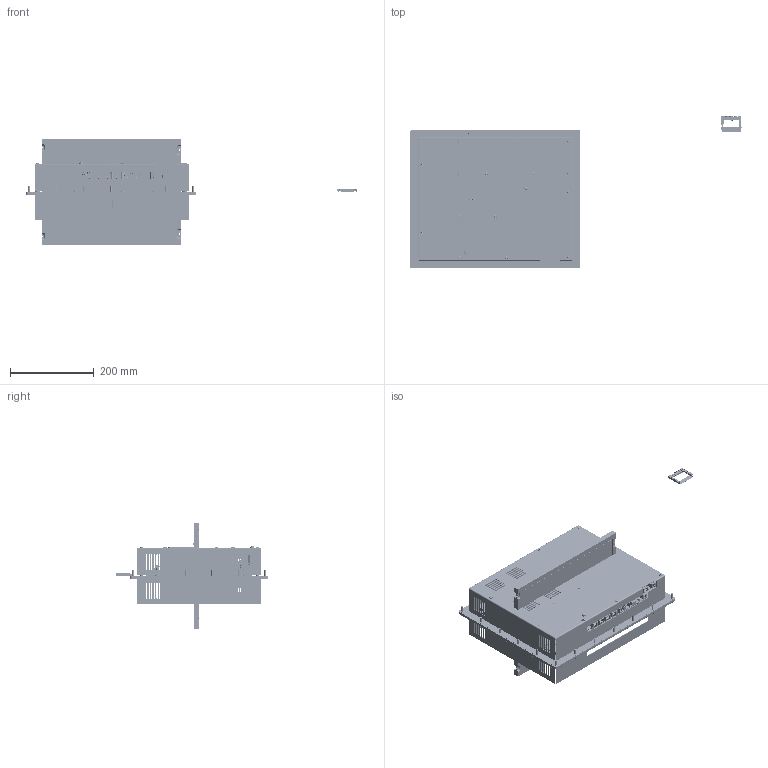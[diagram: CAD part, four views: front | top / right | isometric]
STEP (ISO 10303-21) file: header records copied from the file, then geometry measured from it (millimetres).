
FILE_DESCRIPTION( ( 'Unknown' ), '1' );
FILE_NAME( 'W:/Teams/Mech/SE data/Product_Lines/G3/G315/G315C2.stp', 'Unknown', ( 'Unknown' ), ( 'Unknown' ), 'PSStep 13.0', 'Unknown', ' ' );
FILE_SCHEMA( ( 'AUTOMOTIVE_DESIGN { 1 0 10303 214 1 1 1 1 }' ) );
Length unit declared in the file: inch
Products named in the file (98): HWSMEZ16; HWSMCZ16; PB03677; VGA out pcb; PB03100x; PN113680; SCLIDA10; PB03679; Assem1; BR369500; CV368300; HWSMEZ08; FH-832-12; FH-632-8; FH-632-16; CNMJ6601; CNBMS310; CNMJ8801; HWWLE000; HWSMEP16; HD03A0AL; IN050M00; CPER471P; CPER331M; s-632-1; SO-8632-14; SO-6440-14; CNBFS400; HD15; SCOLL004; HWWLE001; HWSMCZ16_screw; HWSMEP08; CNTP03X0; CNHFR040; CNMJ8803; CNEP0500; CNBMS400; CNZB0140; CNMJ6602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
Bounding box: 792.44 x 364.24 x 254.76 mm (x, y, z)
Volume: 4786165.3 mm3; surface area: 3421223.9 mm2
Topology: 425 solids, 431 shells, 49708 faces, 142725 edges, 92432 vertices
Faces by surface type: plane 38531, cylinder 8704, torus 1259, extrusion 425, revolution 312, cone 204, bspline 169, sphere 104
Full cylindrical faces by diameter (mm): 0.4 x150, 0.559 x30, 0.6 x12, 0.61 x45, 0.635 x6, 0.813 x18, 0.889 x192, 0.9 x6, 0.92 x36, 0.991 x51, 1.016 x45, 1.067 x15, 1.09 x45, 1.092 x6, 1.1 x6, 1.168 x42, 1.194 x6, 1.2 x16, 1.245 x501, 1.295 x6, 1.321 x12, 1.372 x6, 1.524 x24, 1.575 x12, 1.6 x6, 1.702 x6, 2.156 x10, 2.2 x6, 2.21 x6, 2.3 x18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
Entity records: 613237 total; most frequent: CARTESIAN_POINT 98420, ORIENTED_EDGE 84312, DIRECTION 76729, EDGE_CURVE 42156, VECTOR 35447, LINE 35314, VERTEX_POINT 27773, AXIS2_PLACEMENT_3D 20589
